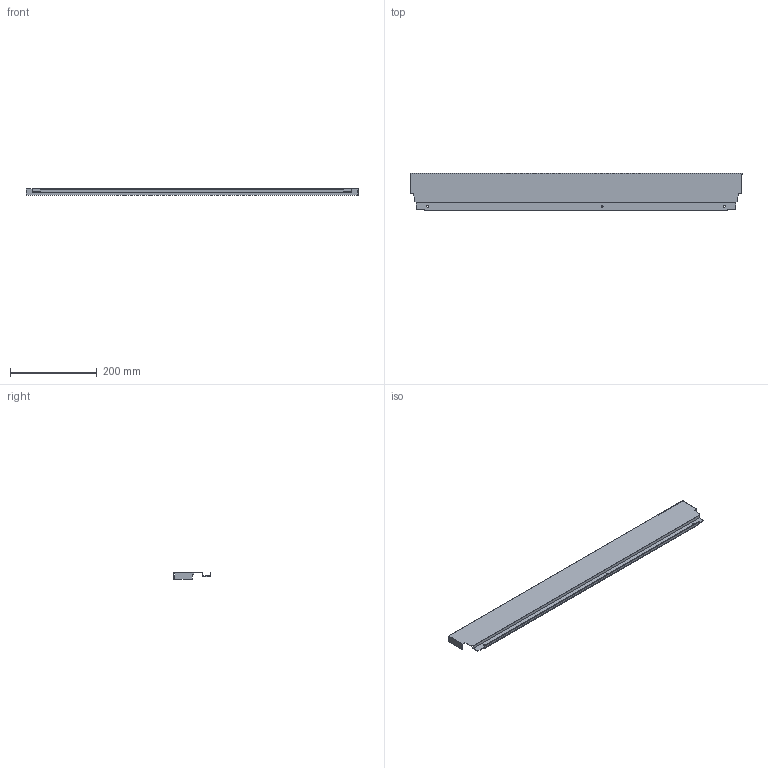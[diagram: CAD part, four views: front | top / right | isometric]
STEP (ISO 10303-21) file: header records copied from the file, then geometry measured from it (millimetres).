
FILE_DESCRIPTION (( 'STEP AP214' ), '1' );
FILE_NAME ('_DWD_XP Stahlrückwand_H86_KAB850_S18.step', '2010-07-08T12:10:25', ( 'grass' ), ( '' ), 'SwSTEP 2.0', 'SolidWorks 2010', '' );
FILE_SCHEMA (( 'AUTOMOTIVE_DESIGN' ));
Length unit declared in the file: millimetre
Products named in the file (1): _DWD_XP Stahlrückwand_H86_KAB850_S18
Bounding box: 765 x 85.79 x 16 mm (x, y, z)
Volume: 81916 mm3; surface area: 177916.3 mm2
Topology: 1 solids, 1 shells, 50 faces, 144 edges, 96 vertices
Faces by surface type: plane 44, cylinder 6
Entity records: 1666 total; most frequent: CARTESIAN_POINT 291, ORIENTED_EDGE 288, DIRECTION 258, EDGE_CURVE 144, VECTOR 132, LINE 132, VERTEX_POINT 96, AXIS2_PLACEMENT_3D 63
